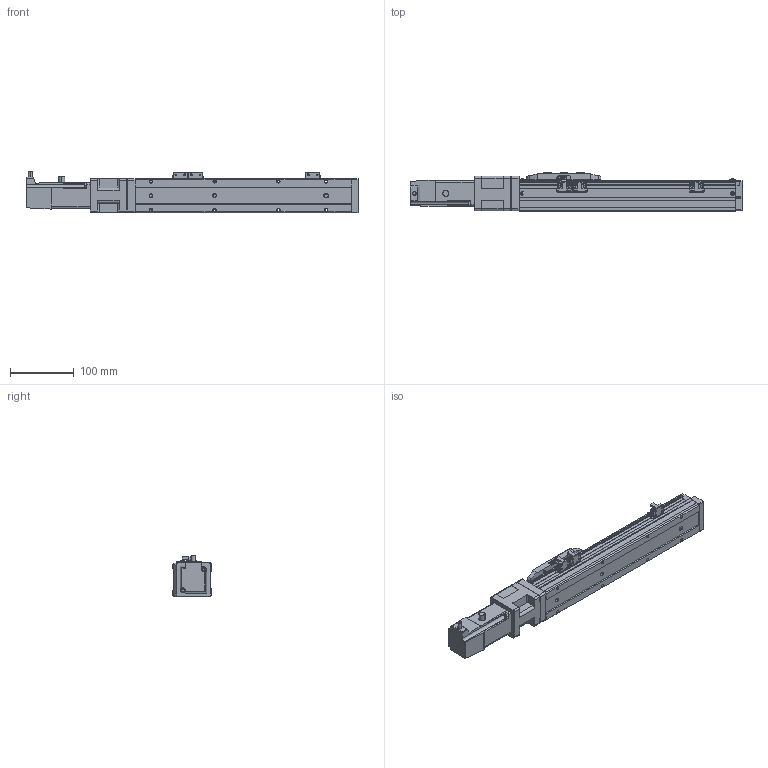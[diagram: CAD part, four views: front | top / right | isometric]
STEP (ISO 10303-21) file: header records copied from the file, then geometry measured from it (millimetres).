
FILE_DESCRIPTION (( 'STEP AP203' ), '1' );
FILE_NAME ('CTH5-L10-S200-BC-C10(¼ò).STEP', '2023-02-04T02:09:58', ( '' ), ( '' ), 'SwSTEP 2.0', 'SolidWorks 2018', '' );
FILE_SCHEMA (( 'CONFIG_CONTROL_DESIGN' ));
Length unit declared in the file: millimetre
Products named in the file (21): T10-p1; CTH5耜晚蹟隊-1; M3｡｣; CTH5綴耜啣; CTH5覜茼え; CTH5萇儂釱欶; CTH5耜晚蹟隊; PM-Y45; 嫖萇羲壽郪磁1; 内六角圆柱头螺钉M3-2; CTH5萇儂釱; CTH5菁釱-L340; 葩璃 蚾饜极13^CTH8-L10-S50-BM-C40(潠)1; CTH嫖萇羲壽假蚾啣; CTH5賑怢; M3; CTH5ヶ耜啣(潠); CTH5-L10-S200-BC-C10(潠); hex nuts, style 1-grades ab gb_GB_FASTENER_NUT_SNAB1 M3-N; 100W萇儂; CTH5-BC-03
Assembly tree (37 placements, depth 3):
  CTH5-L10-S200-BC-C10(潠)
    CTH5綴耜啣
    CTH5賑怢
    CTH5ヶ耜啣(潠)
    CTH5菁釱-L340
    CTH5耜晚蹟隊  x2
    CTH5萇儂釱
      CTH5-BC-03
    CTH5萇儂釱欶
    100W萇儂
      T10-p1
    嫖萇羲壽郪磁1  x2
      CTH嫖萇羲壽假蚾啣
      PM-Y45
      M3｡｣
      内六角圆柱头螺钉M3-2
      hex nuts, style 1-grades ab gb_GB_FASTENER_NUT_SNAB1 M3-N
    CTH5覜茼え
    葩璃 蚾饜极13^CTH8-L10-S50-BM-C40(潠)1
      CTH嫖萇羲壽假蚾啣
      PM-Y45
      内六角圆柱头螺钉M3-2  x2
      M3｡｣  x2
      hex nuts, style 1-grades ab gb_GB_FASTENER_NUT_SNAB1 M3-N  x2
    M3  x2
    CTH5耜晚蹟隊-1  x4
Bounding box: 521.1 x 60 x 65.7 mm (x, y, z)
Volume: 1096054.5 mm3; surface area: 181554.4 mm2
Topology: 40 solids, 40 shells, 1491 faces, 3710 edges, 2398 vertices
Faces by surface type: plane 848, cylinder 430, cone 151, torus 44, bspline 18
Entity records: 33039 total; most frequent: CARTESIAN_POINT 6056, DIRECTION 5186, ORIENTED_EDGE 4968, EDGE_CURVE 2484, AXIS2_PLACEMENT_3D 1775, LINE 1636, VECTOR 1636, VERTEX_POINT 1604
